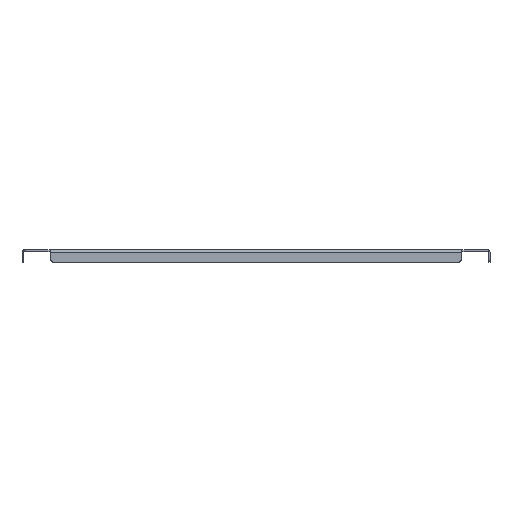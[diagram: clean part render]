
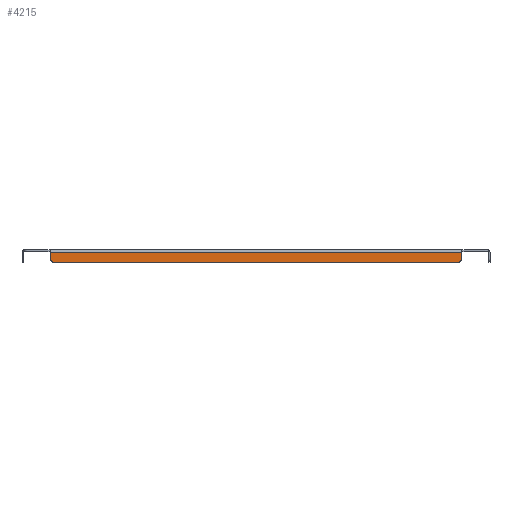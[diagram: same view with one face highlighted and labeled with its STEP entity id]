
A CAD part, front view. The second image highlights one B-rep face of the part: STEP entity #4215.
In plain terms, the highlighted planar face has unit normal (0, -1, 0).
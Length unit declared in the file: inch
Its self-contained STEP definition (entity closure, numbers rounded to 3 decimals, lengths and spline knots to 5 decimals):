
#1578=DIRECTION('',(-1.,0.,0.));
#1579=VECTOR('',#1578,28.9375);
#1580=CARTESIAN_POINT('',(14.46875,-15.46875,-0.1875));
#1581=LINE('',#1580,#1579);
#1692=CARTESIAN_POINT('',(-14.21875,-15.46875,-0.625));
#1693=DIRECTION('',(0.,-1.,0.));
#1694=DIRECTION('',(-1.,0.,0.));
#1695=AXIS2_PLACEMENT_3D('',#1692,#1693,#1694);
#1700=DIRECTION('',(0.,0.,-1.));
#1701=VECTOR('',#1700,0.4375);
#1702=CARTESIAN_POINT('',(-14.46875,-15.46875,-0.1875));
#1703=LINE('',#1702,#1701);
#1707=DIRECTION('',(0.,0.,1.));
#1708=VECTOR('',#1707,0.4375);
#1709=CARTESIAN_POINT('',(14.46875,-15.46875,-0.625));
#1710=LINE('',#1709,#1708);
#1714=CARTESIAN_POINT('',(14.21875,-15.46875,-0.625));
#1715=DIRECTION('',(0.,-1.,0.));
#1716=DIRECTION('',(0.,0.,-1.));
#1717=AXIS2_PLACEMENT_3D('',#1714,#1715,#1716);
#1722=DIRECTION('',(1.,0.,0.));
#1723=VECTOR('',#1722,28.4375);
#1724=CARTESIAN_POINT('',(-14.21875,-15.46875,-0.875));
#1725=LINE('',#1724,#1723);
#2097=CARTESIAN_POINT('',(14.46875,-15.46875,-0.1875));
#2098=CARTESIAN_POINT('',(-14.46875,-15.46875,-0.1875));
#2099=VERTEX_POINT('',#2097);
#2100=VERTEX_POINT('',#2098);
#2385=CARTESIAN_POINT('',(-14.46875,-15.46875,-0.625));
#2386=CARTESIAN_POINT('',(-14.21875,-15.46875,-0.875));
#2387=VERTEX_POINT('',#2385);
#2388=VERTEX_POINT('',#2386);
#2393=CARTESIAN_POINT('',(14.21875,-15.46875,-0.875));
#2394=CARTESIAN_POINT('',(14.46875,-15.46875,-0.625));
#2395=VERTEX_POINT('',#2393);
#2396=VERTEX_POINT('',#2394);
#4199=CARTESIAN_POINT('',(-16.34375,-15.46875,0.));
#4200=DIRECTION('',(0.,-1.,0.));
#4201=DIRECTION('',(-1.,0.,0.));
#4202=AXIS2_PLACEMENT_3D('',#4199,#4200,#4201);
#4203=PLANE('',#4202);
#4204=ORIENTED_EDGE('',*,*,#4189,.F.);
#4205=ORIENTED_EDGE('',*,*,#4179,.F.);
#4206=ORIENTED_EDGE('',*,*,#3985,.F.);
#4208=ORIENTED_EDGE('',*,*,#4207,.F.);
#4210=ORIENTED_EDGE('',*,*,#4209,.F.);
#4212=ORIENTED_EDGE('',*,*,#4211,.F.);
#4213=EDGE_LOOP('',(#4204,#4205,#4206,#4208,#4210,#4212));
#4214=FACE_OUTER_BOUND('',#4213,.F.);
#1696=CIRCLE('',#1695,0.25);
#1718=CIRCLE('',#1717,0.25);
#3985=EDGE_CURVE('',#2099,#2100,#1581,.T.);
#4179=EDGE_CURVE('',#2100,#2387,#1703,.T.);
#4189=EDGE_CURVE('',#2387,#2388,#1696,.T.);
#4207=EDGE_CURVE('',#2396,#2099,#1710,.T.);
#4209=EDGE_CURVE('',#2395,#2396,#1718,.T.);
#4211=EDGE_CURVE('',#2388,#2395,#1725,.T.);
#4215=ADVANCED_FACE('',(#4214),#4203,.T.);
